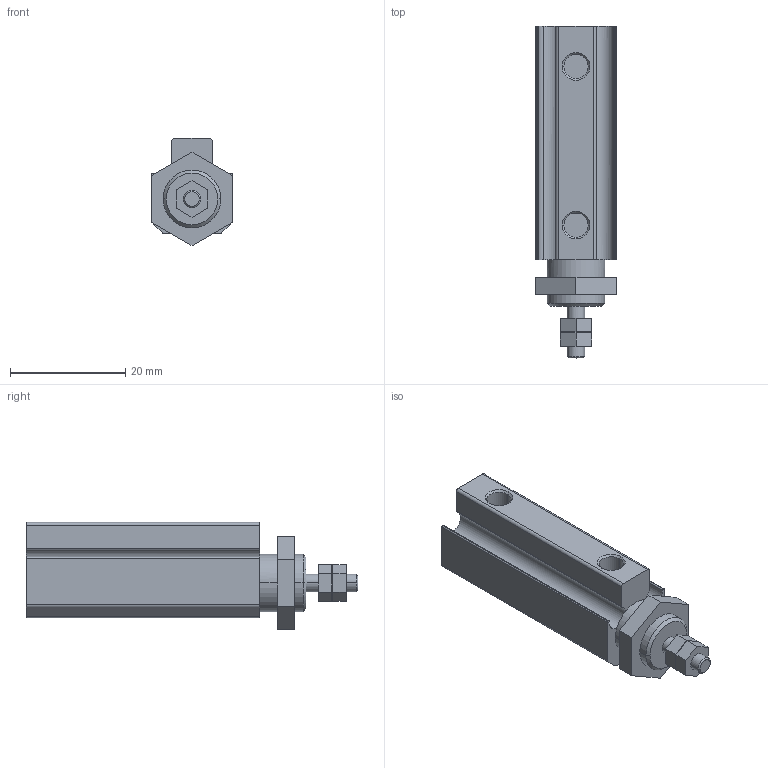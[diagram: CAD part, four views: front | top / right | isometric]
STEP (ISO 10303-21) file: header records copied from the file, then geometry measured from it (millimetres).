
FILE_DESCRIPTION((''),'2;1');
FILE_NAME('B:\CHANTO-3D-已完成\NEW\AAP\AAP-3D\AAP06X15.stp','2010-08-19T19:44:25',('Administrator'),(''),'Autodesk Inventor 8','Autodesk Inventor 8','');
FILE_SCHEMA(('AUTOMOTIVE_DESIGN { 1 0 10303 214 1 1 1 1 }'));
Length unit declared in the file: millimetre
Products named in the file (1): AAP06X15
Bounding box: 14 x 57.5 x 18.58 mm (x, y, z)
Volume: 7619.5 mm3; surface area: 3890.9 mm2
Topology: 1 solids, 1 shells, 81 faces, 198 edges, 128 vertices
Faces by surface type: plane 43, cylinder 30, cone 8
Entity records: 2415 total; most frequent: DIRECTION 438, CARTESIAN_POINT 408, ORIENTED_EDGE 396, EDGE_CURVE 198, AXIS2_PLACEMENT_3D 158, VERTEX_POINT 128, VECTOR 122, LINE 122
